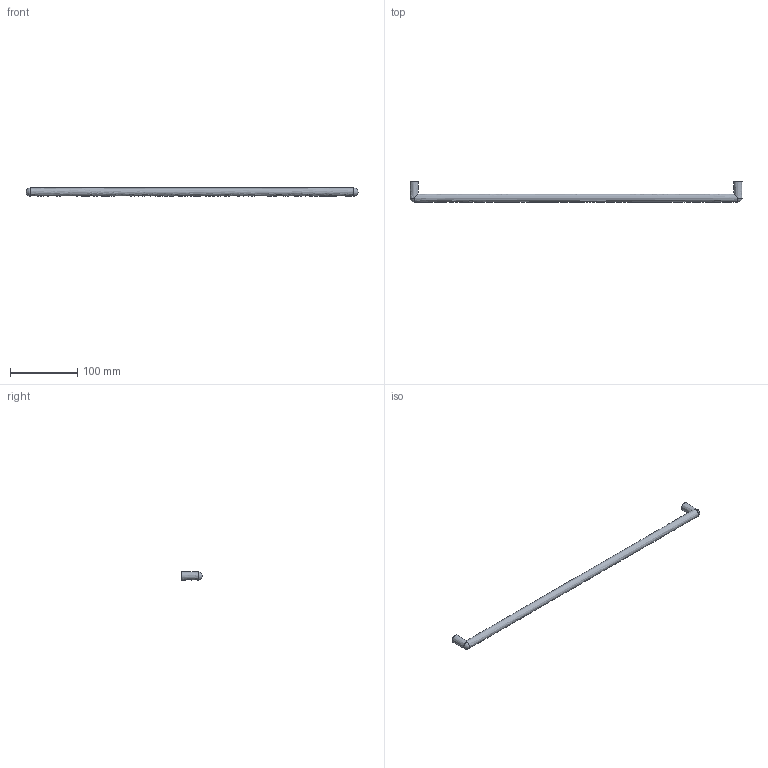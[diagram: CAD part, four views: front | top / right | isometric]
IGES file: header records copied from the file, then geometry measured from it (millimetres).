
Start section: Data from Parasolid IGES Translator 15.0.47, Copyright(c) 2006 Siemens P LM Software. All Rights Reserved.
Global section: file name:  9071000.igs; native system:  By UGS Corp.; preprocessor: XPlus GENERIC/IGES 3.0; author: Noname; organization: Noname; date: 20140122.181548; units: millimetre
Bounding box: 492 x 30 x 12 mm (x, y, z)
Surface area: 20383.7 mm2 (no closed solid volume)
Topology: 0 solids, 0 shells, 11 faces, 38 edges, 30 vertices
Faces by surface type: revolution 7, extrusion 4
